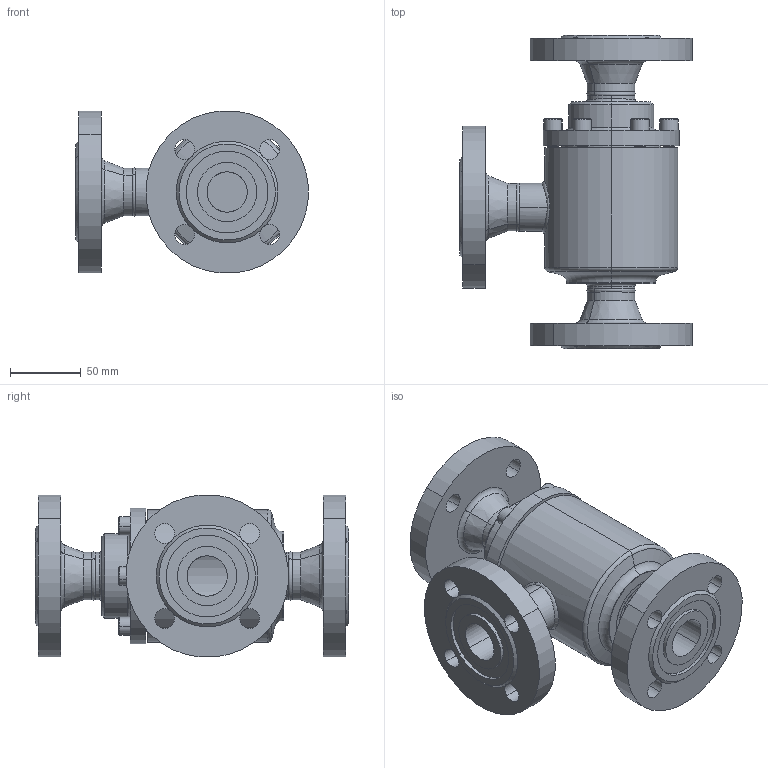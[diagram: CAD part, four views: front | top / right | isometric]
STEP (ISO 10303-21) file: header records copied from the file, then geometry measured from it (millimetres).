
FILE_DESCRIPTION (( 'STEP AP214' ), '1' );
FILE_NAME ('TR47020C12-DN25_DIN_PS40.STEP', '2005-08-10T11:29:23', ( 'Herr Grams' ), ( 'AWP GmbH' ), 'SwSTEP 2.0', 'SolidWorks 2002296', '' );
FILE_SCHEMA (( 'AUTOMOTIVE_DESIGN' ));
Length unit declared in the file: millimetre
Products named in the file (14): TR47020C12-DN25_DIN_PS40; TR25-1_Standard; Deckel47000E12_DN25_PS40_R1_Standard; Führungsring47050-11-DN15-40_Standard; Geh-kpl47020E12-DN25_PS40_DIN_Standard; Stutzenteil47000E12_DN25_PS40_R1_Standard; Geh47000E12_DN25_PS40_R1_Standard; RohrstutzA47000E12-DN25_PS40_R1_Standard; bead12-5_Standard; bead12-4_Standard; bead12-3_Standard; bead11-1_Standard; Zylinderschraube-DIN912-M 8x22_M 8x 22; Flansch-DIN-Nut_PS40_DIN-Flansch-DN025_PS40-Nut
Assembly tree (20 placements, depth 3):
  TR47020C12-DN25_DIN_PS40
    Zylinderschraube-DIN912-M 8x22_M 8x 22  x6
    Deckel47000E12_DN25_PS40_R1_Standard
    TR25-1_Standard
    Flansch-DIN-Nut_PS40_DIN-Flansch-DN025_PS40-Nut
    Führungsring47050-11-DN15-40_Standard
    Geh-kpl47020E12-DN25_PS40_DIN_Standard
      bead12-4_Standard
      Geh47000E12_DN25_PS40_R1_Standard
      Flansch-DIN-Nut_PS40_DIN-Flansch-DN025_PS40-Nut  x2
      RohrstutzA47000E12-DN25_PS40_R1_Standard
      bead12-5_Standard
      bead11-1_Standard
      Stutzenteil47000E12_DN25_PS40_R1_Standard
      bead12-3_Standard
Bounding box: 164.28 x 221.5 x 114.56 mm (x, y, z)
Volume: 959540.3 mm3; surface area: 224866.4 mm2
Topology: 19 solids, 19 shells, 570 faces, 1468 edges, 952 vertices
Faces by surface type: cylinder 346, plane 110, cone 56, torus 30, bspline 28
Entity records: 25815 total; most frequent: CARTESIAN_POINT 19303, ORIENTED_EDGE 1164, DIRECTION 1120, EDGE_CURVE 582, AXIS2_PLACEMENT_3D 468, VERTEX_POINT 372, EDGE_LOOP 296, FACE_OUTER_BOUND 240
